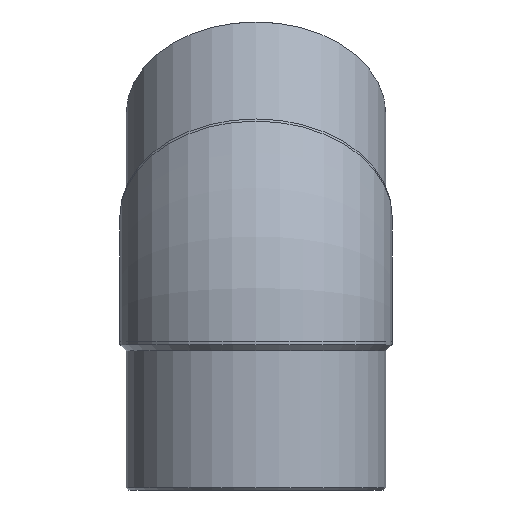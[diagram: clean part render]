
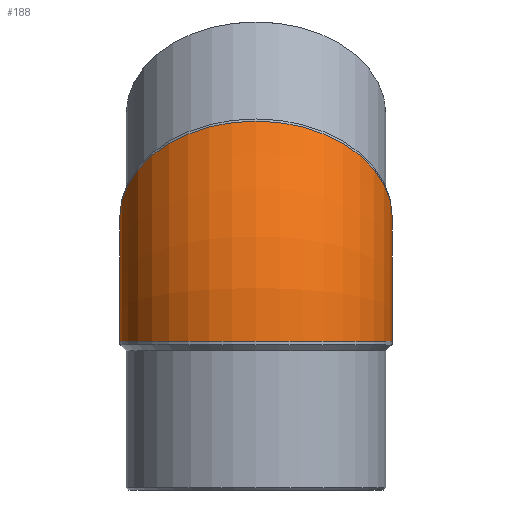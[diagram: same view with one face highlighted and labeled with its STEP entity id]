
A CAD part, left-side view. The second image highlights one B-rep face of the part: STEP entity #188.
In plain terms, the highlighted toroidal (fillet/blend) face has major radius 168.995 mm and minor radius 131 mm.
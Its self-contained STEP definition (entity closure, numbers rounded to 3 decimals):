
#20=TOROIDAL_SURFACE('',#225,168.995,131.);
#53=ORIENTED_EDGE('',*,*,#87,.T.);
#54=ORIENTED_EDGE('',*,*,#86,.F.);
#86=EDGE_CURVE('',#104,#104,#118,.F.);
#87=EDGE_CURVE('',#105,#105,#119,.F.);
#104=VERTEX_POINT('',#351);
#105=VERTEX_POINT('',#354);
#118=CIRCLE('',#224,131.);
#119=CIRCLE('',#226,131.);
#136=EDGE_LOOP('',(#53));
#137=EDGE_LOOP('',(#54));
#163=FACE_BOUND('',#136,.T.);
#164=FACE_BOUND('',#137,.T.);
#188=ADVANCED_FACE('',(#163,#164),#20,.T.);
#224=AXIS2_PLACEMENT_3D('',#350,#270,#271);
#225=AXIS2_PLACEMENT_3D('',#352,#272,#273);
#226=AXIS2_PLACEMENT_3D('',#353,#274,#275);
#270=DIRECTION('',(-0.707,0.,-0.707));
#271=DIRECTION('',(0.707,0.,-0.707));
#272=DIRECTION('',(0.,1.,0.));
#273=DIRECTION('',(0.,0.,1.));
#274=DIRECTION('',(0.,0.,-1.));
#275=DIRECTION('',(1.,0.,0.));
#350=CARTESIAN_POINT('',(49.497,0.,49.497));
#351=CARTESIAN_POINT('',(142.128,0.,-43.134));
#352=CARTESIAN_POINT('',(168.995,0.,-70.));
#353=CARTESIAN_POINT('',(0.,0.,-70.));
#354=CARTESIAN_POINT('',(131.,0.,-70.));
